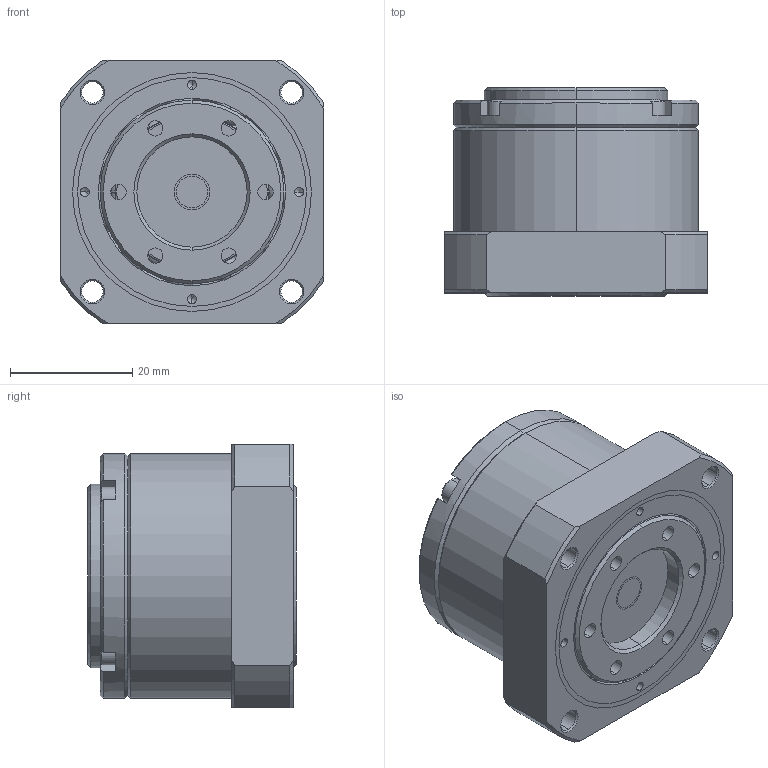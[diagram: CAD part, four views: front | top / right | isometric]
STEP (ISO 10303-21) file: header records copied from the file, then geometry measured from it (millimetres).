
FILE_DESCRIPTION((''),'2;1');
FILE_NAME('1_ASM','2019-05-20T',('Administrator'),(''),'PRO/ENGINEER BY PARAMETRIC TECHNOLOGY CORPORATION, 2014200','PRO/ENGINEER BY PARAMETRIC TECHNOLOGY CORPORATION, 2014200','');
FILE_SCHEMA(('AUTOMOTIVE_DESIGN { 1 0 10303 214 1 1 1 1 }'));
Length unit declared in the file: millimetre
Products named in the file (52): MANIFOLD_SOLID_BREP_4840; MANIFOLD_SOLID_BREP_4841; MANIFOLD_SOLID_BREP_4842; MANIFOLD_SOLID_BREP_4843; MANIFOLD_SOLID_BREP_4844; MANIFOLD_SOLID_BREP_4845; MANIFOLD_SOLID_BREP_4846; MANIFOLD_SOLID_BREP_4847; MANIFOLD_SOLID_BREP_4848; MANIFOLD_SOLID_BREP_4849; MANIFOLD_SOLID_BREP_4850; MANIFOLD_SOLID_BREP_4851; MANIFOLD_SOLID_BREP_4852; MANIFOLD_SOLID_BREP_4853; MANIFOLD_SOLID_BREP_4854; MANIFOLD_SOLID_BREP_4855; MANIFOLD_SOLID_BREP_4856; MANIFOLD_SOLID_BREP_4857; MANIFOLD_SOLID_BREP_4858; MANIFOLD_SOLID_BREP_4859; MANIFOLD_SOLID_BREP_4860; MANIFOLD_SOLID_BREP_4861; MANIFOLD_SOLID_BREP_4862; MANIFOLD_SOLID_BREP_4863; MANIFOLD_SOLID_BREP_4864; MANIFOLD_SOLID_BREP_4865; MANIFOLD_SOLID_BREP_4866; MANIFOLD_SOLID_BREP_4867; MANIFOLD_SOLID_BREP_4868; MANIFOLD_SOLID_BREP_4869; MANIFOLD_SOLID_BREP_4870; MANIFOLD_SOLID_BREP_4871; MANIFOLD_SOLID_BREP_4872; MANIFOLD_SOLID_BREP_4873; MANIFOLD_SOLID_BREP_4874; MANIFOLD_SOLID_BREP_4875; MANIFOLD_SOLID_BREP_4876; MANIFOLD_SOLID_BREP_4877; MANIFOLD_SOLID_BREP_4878; MANIFOLD_SOLID_BREP_4879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
Assembly tree (54 placements, depth 3):
  1_ASM
    LSS-MINI-11_3-FFFF_ASM
      MANIFOLD_SOLID_BREP_4840
      MANIFOLD_SOLID_BREP_4841
      MANIFOLD_SOLID_BREP_4842
      MANIFOLD_SOLID_BREP_4843
      MANIFOLD_SOLID_BREP_4844
      MANIFOLD_SOLID_BREP_4845
      MANIFOLD_SOLID_BREP_4846
      MANIFOLD_SOLID_BREP_4847
      MANIFOLD_SOLID_BREP_4848
      MANIFOLD_SOLID_BREP_4849
      MANIFOLD_SOLID_BREP_4850
      MANIFOLD_SOLID_BREP_4851
      MANIFOLD_SOLID_BREP_4852
      MANIFOLD_SOLID_BREP_4853
      MANIFOLD_SOLID_BREP_4854
      MANIFOLD_SOLID_BREP_4855
      MANIFOLD_SOLID_BREP_4856
      MANIFOLD_SOLID_BREP_4857
      MANIFOLD_SOLID_BREP_4858
      MANIFOLD_SOLID_BREP_4859
      MANIFOLD_SOLID_BREP_4860
      MANIFOLD_SOLID_BREP_4861
      MANIFOLD_SOLID_BREP_4862
      MANIFOLD_SOLID_BREP_4863
      MANIFOLD_SOLID_BREP_4864
      MANIFOLD_SOLID_BREP_4865
      MANIFOLD_SOLID_BREP_4866
      MANIFOLD_SOLID_BREP_4867
      MANIFOLD_SOLID_BREP_4868
      MANIFOLD_SOLID_BREP_4869
      MANIFOLD_SOLID_BREP_4870
      MANIFOLD_SOLID_BREP_4871
      MANIFOLD_SOLID_BREP_4872
      MANIFOLD_SOLID_BREP_4873
      MANIFOLD_SOLID_BREP_4874
      MANIFOLD_SOLID_BREP_4875
      MANIFOLD_SOLID_BREP_4876
      MANIFOLD_SOLID_BREP_4877
      MANIFOLD_SOLID_BREP_4878
      MANIFOLD_SOLID_BREP_4879
      MANIFOLD_SOLID_BREP_4880
      MANIFOLD_SOLID_BREP_4881
      MANIFOLD_SOLID_BREP_4882
      MANIFOLD_SOLID_BREP_4883
      MANIFOLD_SOLID_BREP_4884
      MANIFOLD_SOLID_BREP_4885
      MANIFOLD_SOLID_BREP_4886
      MANIFOLD_SOLID_BREP_4887
      MANIFOLD_SOLID_BREP_4888
    M3  x4
Bounding box: 43 x 34 x 43 mm (x, y, z)
Volume: 36960.8 mm3; surface area: 32562.1 mm2
Topology: 53 solids, 53 shells, 759 faces, 1859 edges, 1089 vertices
Faces by surface type: cylinder 262, plane 183, cone 158, torus 92, sphere 64
Entity records: 30639 total; most frequent: DIRECTION 4322, CARTESIAN_POINT 3906, ORIENTED_EDGE 3218, AXIS2_PLACEMENT_3D 1873, PRESENTATION_STYLE_ASSIGNMENT 1782, STYLED_ITEM 1782, CURVE_STYLE 1609, EDGE_CURVE 1609
